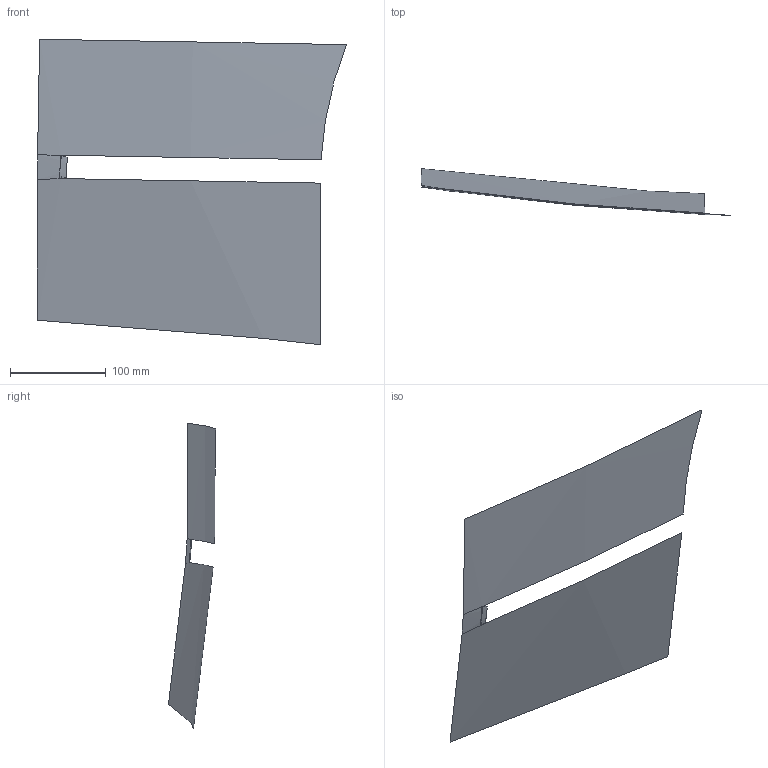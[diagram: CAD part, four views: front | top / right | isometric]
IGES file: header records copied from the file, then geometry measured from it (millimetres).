
Global section: file name: faces2.igs; native system: ANSA9.x; preprocessor: 1.2; author: cai; date: **0102.112811; units: millimetre
Bounding box: 322.77 x 49.27 x 318.93 mm (x, y, z)
Surface area: 85140.5 mm2 (no closed solid volume)
Topology: 0 solids, 0 shells, 3 faces, 16 edges, 17 vertices
Faces by surface type: bspline 3
